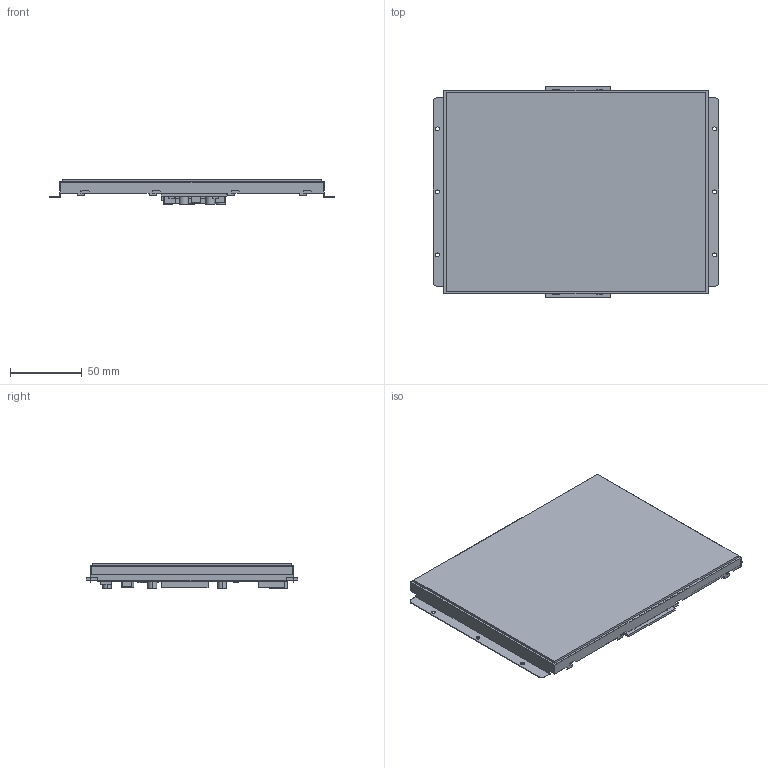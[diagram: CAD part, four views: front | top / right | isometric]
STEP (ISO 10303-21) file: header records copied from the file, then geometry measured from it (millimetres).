
FILE_DESCRIPTION((''),'2;1');
FILE_NAME('DMG80600L080-01WTR_ASM','2019-08-22T',('Administrator'),(''),'PRO/ENGINEER BY PARAMETRIC TECHNOLOGY CORPORATION, 2011310','PRO/ENGINEER BY PARAMETRIC TECHNOLOGY CORPORATION, 2011310','');
FILE_SCHEMA(('CONFIG_CONTROL_DESIGN','SHAPE_APPEARANCE_LAYERS_GROUPS'));
Length unit declared in the file: millimetre
Products named in the file (5): LCM; TK; RTP; PCBA; DMG80600L080-01WTR_ASM
Assembly tree (4 placements, depth 2):
  DMG80600L080-01WTR_ASM
    LCM
    TK
    RTP
    PCBA
Bounding box: 199.3 x 147.57 x 17.2 mm (x, y, z)
Volume: 211528.3 mm3; surface area: 150371.2 mm2
Topology: 4 solids, 4 shells, 233 faces, 630 edges, 420 vertices
Faces by surface type: plane 195, cylinder 38
Entity records: 7435 total; most frequent: CARTESIAN_POINT 1292, ORIENTED_EDGE 1260, DIRECTION 1190, EDGE_CURVE 630, VECTOR 554, LINE 554, VERTEX_POINT 420, AXIS2_PLACEMENT_3D 318
